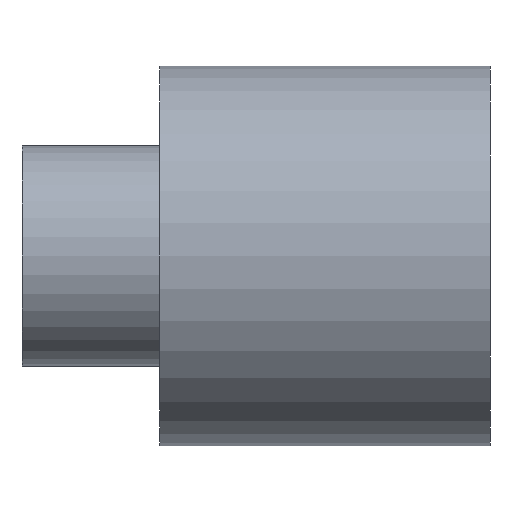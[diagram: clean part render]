
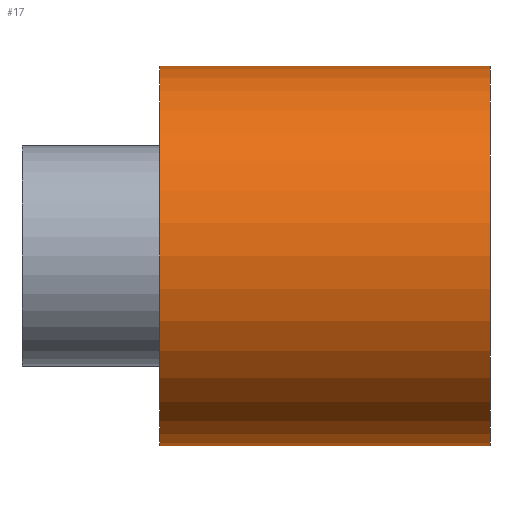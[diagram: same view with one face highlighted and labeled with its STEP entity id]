
A CAD part, front view. The second image highlights one B-rep face of the part: STEP entity #17.
In plain terms, the highlighted cylindrical face has radius 6.9 mm (diameter 13.8 mm), a full revolution.
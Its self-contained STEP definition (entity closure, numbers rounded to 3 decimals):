
#17 = ADVANCED_FACE('',(#18),#32,.T.);
#18 = FACE_BOUND('',#19,.F.);
#19 = EDGE_LOOP('',(#20,#50,#77,#78));
#20 = ORIENTED_EDGE('',*,*,#21,.T.);
#21 = EDGE_CURVE('',#22,#24,#26,.T.);
#22 = VERTEX_POINT('',#23);
#23 = CARTESIAN_POINT('',(33.,-6.9,0.));
#24 = VERTEX_POINT('',#25);
#25 = CARTESIAN_POINT('',(45.,-6.9,0.));
#26 = SEAM_CURVE('',#27,(#31,#43),.PCURVE_S1.);
#27 = LINE('',#28,#29);
#28 = CARTESIAN_POINT('',(33.,-6.9,0.));
#29 = VECTOR('',#30,1.);
#30 = DIRECTION('',(1.,0.,0.));
#31 = PCURVE('',#32,#37);
#32 = CYLINDRICAL_SURFACE('',#33,6.9);
#33 = AXIS2_PLACEMENT_3D('',#34,#35,#36);
#34 = CARTESIAN_POINT('',(33.,0.,0.));
#35 = DIRECTION('',(-1.,-0.,-0.));
#36 = DIRECTION('',(0.,-1.,0.));
#37 = DEFINITIONAL_REPRESENTATION('',(#38),#42);
#38 = LINE('',#39,#40);
#39 = CARTESIAN_POINT('',(-0.,0.));
#40 = VECTOR('',#41,1.);
#41 = DIRECTION('',(-0.,-1.));
#42 = ( GEOMETRIC_REPRESENTATION_CONTEXT(2) 
PARAMETRIC_REPRESENTATION_CONTEXT() REPRESENTATION_CONTEXT('2D SPACE',''
  ) );
#43 = PCURVE('',#32,#44);
#44 = DEFINITIONAL_REPRESENTATION('',(#45),#49);
#45 = LINE('',#46,#47);
#46 = CARTESIAN_POINT('',(-6.283,0.));
#47 = VECTOR('',#48,1.);
#48 = DIRECTION('',(-0.,-1.));
#49 = ( GEOMETRIC_REPRESENTATION_CONTEXT(2) 
PARAMETRIC_REPRESENTATION_CONTEXT() REPRESENTATION_CONTEXT('2D SPACE',''
  ) );
#50 = ORIENTED_EDGE('',*,*,#51,.T.);
#51 = EDGE_CURVE('',#24,#24,#52,.T.);
#52 = SURFACE_CURVE('',#53,(#58,#65),.PCURVE_S1.);
#53 = CIRCLE('',#54,6.9);
#54 = AXIS2_PLACEMENT_3D('',#55,#56,#57);
#55 = CARTESIAN_POINT('',(45.,0.,0.));
#56 = DIRECTION('',(1.,0.,0.));
#57 = DIRECTION('',(0.,-1.,0.));
#58 = PCURVE('',#32,#59);
#59 = DEFINITIONAL_REPRESENTATION('',(#60),#64);
#60 = LINE('',#61,#62);
#61 = CARTESIAN_POINT('',(-0.,-12.));
#62 = VECTOR('',#63,1.);
#63 = DIRECTION('',(-1.,0.));
#64 = ( GEOMETRIC_REPRESENTATION_CONTEXT(2) 
PARAMETRIC_REPRESENTATION_CONTEXT() REPRESENTATION_CONTEXT('2D SPACE',''
  ) );
#65 = PCURVE('',#66,#71);
#66 = PLANE('',#67);
#67 = AXIS2_PLACEMENT_3D('',#68,#69,#70);
#68 = CARTESIAN_POINT('',(45.,0.,0.));
#69 = DIRECTION('',(1.,0.,0.));
#70 = DIRECTION('',(-0.,0.,1.));
#71 = DEFINITIONAL_REPRESENTATION('',(#72),#76);
#72 = CIRCLE('',#73,6.9);
#73 = AXIS2_PLACEMENT_2D('',#74,#75);
#74 = CARTESIAN_POINT('',(0.,0.));
#75 = DIRECTION('',(0.,1.));
#76 = ( GEOMETRIC_REPRESENTATION_CONTEXT(2) 
PARAMETRIC_REPRESENTATION_CONTEXT() REPRESENTATION_CONTEXT('2D SPACE',''
  ) );
#77 = ORIENTED_EDGE('',*,*,#21,.F.);
#78 = ORIENTED_EDGE('',*,*,#79,.F.);
#79 = EDGE_CURVE('',#22,#22,#80,.T.);
#80 = SURFACE_CURVE('',#81,(#86,#93),.PCURVE_S1.);
#81 = CIRCLE('',#82,6.9);
#82 = AXIS2_PLACEMENT_3D('',#83,#84,#85);
#83 = CARTESIAN_POINT('',(33.,0.,0.));
#84 = DIRECTION('',(1.,0.,0.));
#85 = DIRECTION('',(0.,-1.,0.));
#86 = PCURVE('',#32,#87);
#87 = DEFINITIONAL_REPRESENTATION('',(#88),#92);
#88 = LINE('',#89,#90);
#89 = CARTESIAN_POINT('',(-0.,0.));
#90 = VECTOR('',#91,1.);
#91 = DIRECTION('',(-1.,0.));
#92 = ( GEOMETRIC_REPRESENTATION_CONTEXT(2) 
PARAMETRIC_REPRESENTATION_CONTEXT() REPRESENTATION_CONTEXT('2D SPACE',''
  ) );
#93 = PCURVE('',#94,#99);
#94 = PLANE('',#95);
#95 = AXIS2_PLACEMENT_3D('',#96,#97,#98);
#96 = CARTESIAN_POINT('',(33.,0.,0.));
#97 = DIRECTION('',(1.,0.,0.));
#98 = DIRECTION('',(-0.,0.,1.));
#99 = DEFINITIONAL_REPRESENTATION('',(#100),#104);
#100 = CIRCLE('',#101,6.9);
#101 = AXIS2_PLACEMENT_2D('',#102,#103);
#102 = CARTESIAN_POINT('',(0.,0.));
#103 = DIRECTION('',(0.,1.));
#104 = ( GEOMETRIC_REPRESENTATION_CONTEXT(2) 
PARAMETRIC_REPRESENTATION_CONTEXT() REPRESENTATION_CONTEXT('2D SPACE',''
  ) );
